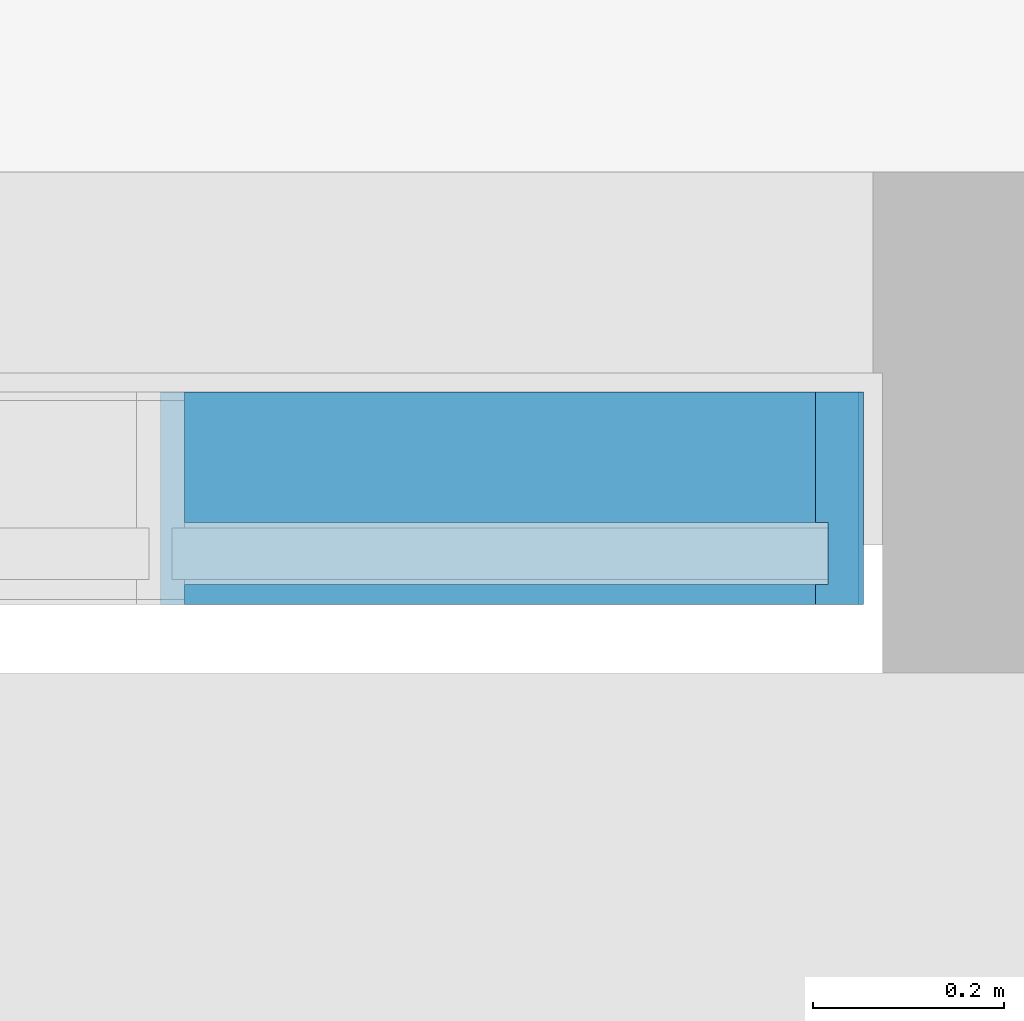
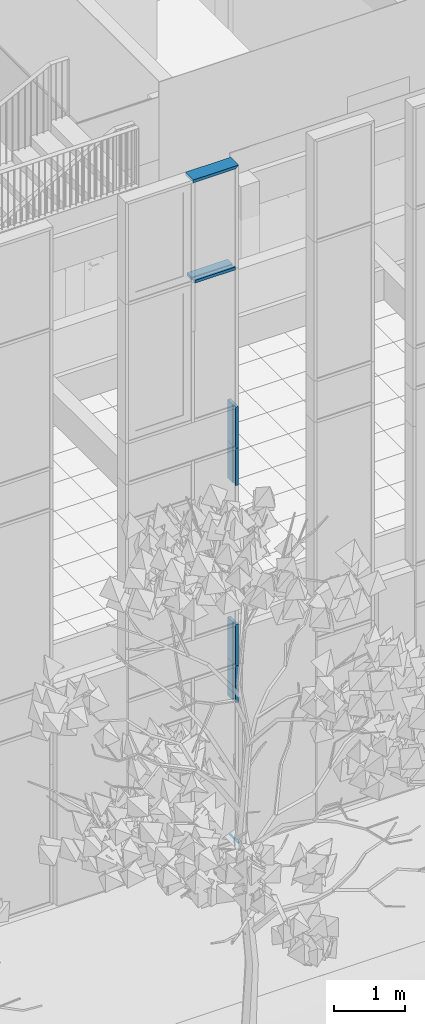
# One storey, part 39 of 246: 7 members, 1 element without a shape of its own.
"""IFC2X3 building model written with IfcOpenShell, lengths in millimetres."""

from ifc_helpers import new_model, entity, si_unit, converted_unit, derived_unit, money_unit, direction, frame, origin_with_axes, place, context, subcontext, project, spatial, faceted_brep, source, transform, mapped, material, type_object, element, aggregate, save


model = new_model("IFC2X3")

# Units and contexts
model_context = context("Model", 3, precision=0.01, world=origin_with_axes(), true_north=direction((0.0, 1.0)))
body_context = subcontext(model_context, "Body", "Model", "MODEL_VIEW")
ifc_project = project(units=[si_unit("LENGTHUNIT", "METRE", prefix="MILLI"), si_unit("AREAUNIT", "SQUARE_METRE"), si_unit("VOLUMEUNIT", "CUBIC_METRE"), converted_unit("PLANEANGLEUNIT", "DEGREE", entity("IfcPlaneAngleMeasure", 0.0174532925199), si_unit("PLANEANGLEUNIT", "RADIAN"), dimensions=[0, 0, 0, 0, 0, 0, 0]), si_unit("SOLIDANGLEUNIT", "STERADIAN"), money_unit("EUR"), converted_unit("TIMEUNIT", "Year", entity("IfcTimeMeasure", 31556926.0), si_unit("TIMEUNIT", "SECOND"), dimensions=[0, 0, 1, 0, 0, 0, 0]), si_unit("MASSUNIT", "GRAM", prefix="KILO"), si_unit("THERMODYNAMICTEMPERATUREUNIT", "DEGREE_CELSIUS"), si_unit("LUMINOUSINTENSITYUNIT", "LUMEN"), si_unit("ENERGYUNIT", "JOULE", prefix="MEGA"), derived_unit("THERMALCONDUCTANCEUNIT", [(si_unit("POWERUNIT", "WATT"), 1), (si_unit("LENGTHUNIT", "METRE"), -1), (si_unit("THERMODYNAMICTEMPERATUREUNIT", "KELVIN"), -1)]), derived_unit("SPECIFICHEATCAPACITYUNIT", [(si_unit("ENERGYUNIT", "JOULE"), 1), (si_unit("MASSUNIT", "GRAM", prefix="KILO"), -1), (si_unit("THERMODYNAMICTEMPERATUREUNIT", "KELVIN"), -1)]), derived_unit("MASSDENSITYUNIT", [(si_unit("MASSUNIT", "GRAM", prefix="KILO"), 1), (si_unit("VOLUMEUNIT", "CUBIC_METRE"), -1)])], contexts=[model_context])

# Site, building, storey
site_placement = place(None, origin_with_axes())
site = spatial("IfcSite", under=ifc_project, at=site_placement, Name="L.Koidula tn 11b", CompositionType="ELEMENT")
building_placement = place(site_placement, origin_with_axes())
building = spatial("IfcBuilding", under=site, at=building_placement, Name="Rakvere Riigigümnaasium", CompositionType="ELEMENT")
storey_placement = place(building_placement, origin_with_axes())
storey = spatial("IfcBuildingStorey", under=building, at=storey_placement, Name="1.korrus 0,00", CompositionType="ELEMENT", Elevation=0.0)

# Curtain wall, members
curtain_wall_type = type_object("IfcCurtainWallType", Name="Curtain Wall Type", PredefinedType="NOTDEFINED")
curtain_wall_placement = place(storey_placement, frame((59064.0000846, 5111.45334637, -8.09717250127e-06), z_axis=(0.0, 0.0, 1.0), x_axis=(1.0, 0.0, 0.0)))
curtain_wall = element("IfcCurtainWall", 1, at=curtain_wall_placement, inside=storey, type_object=curtain_wall_type, Name="KLF-05-2A")
ifc_material = material(Name="Alumiiniumprofiil (RAL 7021)")
member_type_1 = type_object("IfcMemberType", Name="Boundary Frame 50 x 222", PredefinedType="MULLION")
shared_shape_1 = source(origin_with_axes(), body_context, "Body", "Brep", [
    faceted_brep([(37.0, -32.5, 705.000000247), (37.0, 32.5, 705.000000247), (50.0, 32.5, 705.000000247), (50.0, 53.0, 705.000000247), (0.0, 53.0, 705.000000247), (0.0, -169.0, 705.000000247), (50.0, -169.0, 705.000000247), (50.0, -32.5, 705.000000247), (37.0, -32.5, 0.0), (37.0, 32.5, 0.0), (50.0, 32.5, 0.0), (50.0, 53.0, 0.0), (0.0, 53.0, 0.0), (0.0, -169.0, 0.0), (50.0, -169.0, 0.0), (50.0, -32.5, 0.0)], [[[0, 1, 2, 3, 4, 5, 6, 7]], [[1, 0, 8, 9]], [[10, 2, 1, 9]], [[2, 10, 11, 3]], [[12, 4, 3, 11]], [[13, 5, 4, 12]], [[14, 6, 5, 13]], [[15, 7, 6, 14]], [[0, 7, 15, 8]], [[8, 15, 14, 13, 12, 11, 10, 9]]]),
])
member_1_placement = place(curtain_wall_placement, frame((876.000206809, 0.0, 6760.0), z_axis=(0.0, 0.0, 1.0), x_axis=(-1.0, 0.0, 0.0)))
member_1 = element("IfcMember", 2, at=member_1_placement, type_object=member_type_1, material=ifc_material, Name="KLF-05-7A-Profiilid", ObjectType="MULLION", context=body_context, shape_type="MappedRepresentation", body=[
    mapped(shared_shape_1, transform((0.0, 0.0, 0.0))),
])
member_2_placement = place(curtain_wall_placement, frame((876.000206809, 0.0, 3040.0), z_axis=(0.0, 0.0, 1.0), x_axis=(-1.0, 0.0, 0.0)))
member_2 = element("IfcMember", 3, at=member_2_placement, type_object=member_type_1, material=ifc_material, Name="KLF-05-4A-Profiilid", ObjectType="MULLION", context=body_context, shape_type="MappedRepresentation", body=[
    mapped(shared_shape_1, transform((0.0, 0.0, 0.0))),
])
shared_shape_2 = source(origin_with_axes(), body_context, "Body", "Brep", [
    faceted_brep([(37.0, -32.5, 640.0), (37.0, 32.5, 640.0), (50.0, 32.5, 640.0), (50.0, 53.0, 640.0), (0.0, 53.0, 640.0), (0.0, -169.0, 640.0), (50.0, -169.0, 640.0), (50.0, -32.5, 640.0), (37.0, -32.5, 0.0), (37.0, 32.5, 0.0), (50.0, 32.5, 0.0), (50.0, 53.0, 0.0), (0.0, 53.0, 0.0), (0.0, -169.0, 0.0), (50.0, -169.0, 0.0), (50.0, -32.5, 0.0)], [[[0, 1, 2, 3, 4, 5, 6, 7]], [[1, 0, 8, 9]], [[10, 2, 1, 9]], [[2, 10, 11, 3]], [[12, 4, 3, 11]], [[13, 5, 4, 12]], [[14, 6, 5, 13]], [[15, 7, 6, 14]], [[0, 7, 15, 8]], [[8, 15, 14, 13, 12, 11, 10, 9]]]),
])
member_3_placement = place(curtain_wall_placement, frame((876.000206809, 0.0, 6120.0), z_axis=(0.0, 0.0, 1.0), x_axis=(-1.0, 0.0, 0.0)))
member_3 = element("IfcMember", 4, at=member_3_placement, type_object=member_type_1, material=ifc_material, Name="KLF-05-6A-Profiilid", ObjectType="MULLION", context=body_context, shape_type="MappedRepresentation", body=[
    mapped(shared_shape_2, transform((0.0, 0.0, 0.0))),
])
member_4_placement = place(curtain_wall_placement, frame((876.000206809, 0.0, 2400.0), z_axis=(0.0, 0.0, 1.0), x_axis=(-1.0, 0.0, 0.0)))
member_4 = element("IfcMember", 5, at=member_4_placement, type_object=member_type_1, material=ifc_material, Name="KLF-05-3A-Profiilid", ObjectType="MULLION", context=body_context, shape_type="MappedRepresentation", body=[
    mapped(shared_shape_2, transform((0.0, 0.0, 0.0))),
])
member_type_2 = type_object("IfcMemberType", Name="Transom Frame 50 x 222", PredefinedType="MULLION")
shared_shape_3 = source(origin_with_axes(), body_context, "Body", "Brep", [
    faceted_brep([(-12.0, -32.5, 685.000257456), (-25.0, -32.5, 685.000257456), (-25.0, -169.0, 685.000249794), (25.0, -169.0, 685.000249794), (25.0, -32.5, 685.000257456), (12.0, -32.5, 685.000257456), (12.0, 32.5, 685.000261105), (25.0, 32.5, 685.000261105), (25.0, 53.0, 685.000262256), (-25.0, 53.0, 685.000262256), (-25.0, 32.5, 685.000261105), (-12.0, 32.5, 685.000261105), (-12.0, -32.5, 25.0), (-25.0, -32.5, 25.0), (-25.0, -169.0, 25.0), (25.0, -169.0, 25.0), (25.0, -32.5, 25.0), (12.0, -32.5, 25.0), (12.0, 32.5, 25.0), (25.0, 32.5, 25.0), (25.0, 53.0, 25.0), (-25.0, 53.0, 25.0), (-25.0, 32.5, 25.0), (-12.0, 32.5, 25.0)], [[[0, 1, 2, 3, 4, 5, 6, 7, 8, 9, 10, 11]], [[1, 0, 12, 13]], [[1, 13, 14, 2]], [[2, 14, 15, 3]], [[4, 3, 15, 16]], [[4, 16, 17, 5]], [[5, 17, 18, 6]], [[7, 6, 18, 19]], [[19, 20, 8, 7]], [[8, 20, 21, 9]], [[22, 10, 9, 21]], [[11, 10, 22, 23]], [[0, 11, 23, 12]], [[23, 22, 21, 20, 19, 18, 17, 16, 15, 14, 13, 12]]]),
])
member_5_placement = place(curtain_wall_placement, frame((140.999912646, 0.0, 9840.0), z_axis=(1.0, 0.0, 0.0), x_axis=(0.0, 0.0, 1.0)))
member_5 = element("IfcMember", 6, at=member_5_placement, type_object=member_type_2, material=ifc_material, Name="KLF-05-0A-Profiilid", ObjectType="MULLION", context=body_context, shape_type="MappedRepresentation", body=[
    mapped(shared_shape_3, transform((0.0, 0.0, 0.0))),
])
shared_shape_4 = source(origin_with_axes(), body_context, "Body", "Brep", [
    faceted_brep([(5.00003729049, 53.0, 0.0), (0.0, 53.0, 0.0), (0.0, 53.0, 5.00003729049), (5.00003729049, -169.0, 0.0), (0.0, -169.0, 0.0), (0.0, -169.0, 5.00003729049)], [[[0, 1, 2]], [[3, 4, 1, 0]], [[1, 4, 5, 2]], [[0, 2, 5, 3]], [[4, 3, 5]]]),
])
member_6_placement = place(curtain_wall_placement, frame((871.000169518, 0.0, 0.0), z_axis=(1.0, 0.0, 0.0), x_axis=(0.0, 0.0, 1.0)))
member_6 = element("IfcMember", 7, at=member_6_placement, type_object=member_type_1, material=ifc_material, Name="KLF-05-1A-Profiilid", ObjectType="MULLION", context=body_context, shape_type="MappedRepresentation", body=[
    mapped(shared_shape_4, transform((0.0, 0.0, 0.0))),
])
shared_shape_5 = source(origin_with_axes(), body_context, "Body", "Brep", [
    faceted_brep([(37.0, -32.5, 735.000357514), (37.0, 32.5, 735.000357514), (50.0, 32.5, 735.000357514), (50.0, 53.0, 735.000357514), (0.0, 53.0, 735.000357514), (0.0, -169.0, 735.000357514), (50.0, -169.0, 735.000357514), (50.0, -32.5, 735.000357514), (37.0, -32.5, 37.0000020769), (37.0, 32.5, 37.0000020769), (50.0, 32.5, 50.0000028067), (50.0, 53.0, 50.0000028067), (0.0, 53.0, 0.0), (0.0, -169.0, 0.0), (50.0, -169.0, 50.0000028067), (50.0, -32.5, 50.0000028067)], [[[0, 1, 2, 3, 4, 5, 6, 7]], [[1, 0, 8, 9]], [[10, 2, 1, 9]], [[2, 10, 11, 3]], [[4, 3, 11, 12]], [[5, 4, 12, 13]], [[6, 5, 13, 14]], [[15, 7, 6, 14]], [[0, 7, 15, 8]], [[8, 15, 14, 13, 12, 11, 10, 9]]]),
])
member_7_placement = place(curtain_wall_placement, frame((876.00027016, 0.0, 11590.0000411), z_axis=(-1.0, 0.0, 0.0), x_axis=(0.0, 0.0, -1.0)))
member_7 = element("IfcMember", 8, at=member_7_placement, type_object=member_type_1, material=ifc_material, Name="KLF-05-0A-Profiilid", ObjectType="MULLION", context=body_context, shape_type="MappedRepresentation", body=[
    mapped(shared_shape_5, transform((0.0, 0.0, 0.0))),
])
aggregate(curtain_wall, [member_3, member_1, member_5, member_2, member_4, member_6, member_7])

save(model, "model.ifc")
